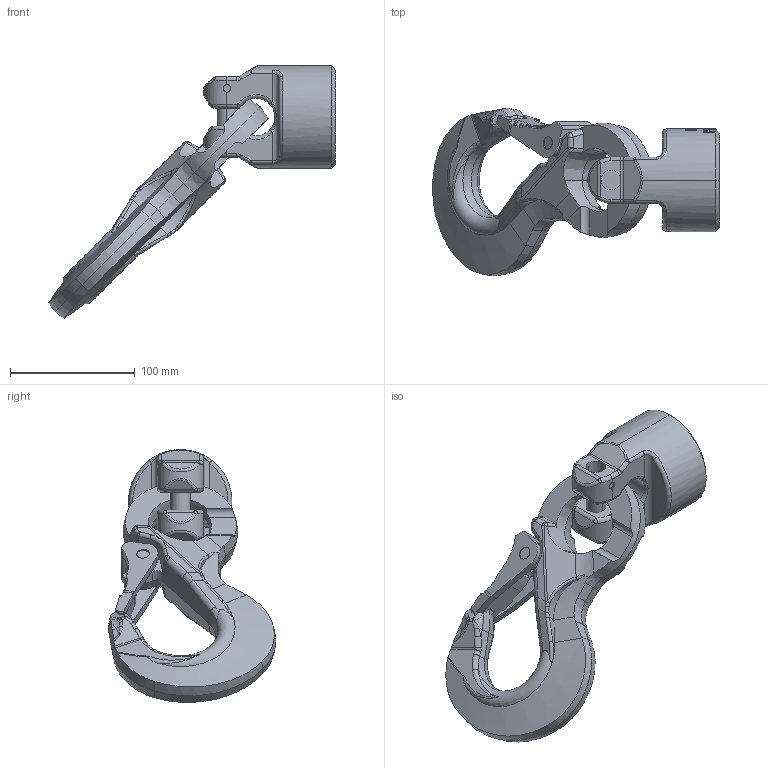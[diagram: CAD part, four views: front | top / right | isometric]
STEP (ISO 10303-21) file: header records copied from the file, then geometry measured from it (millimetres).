
FILE_DESCRIPTION((''),'2;1');
FILE_NAME('001-M31395-P-50_ASM','2018-04-26T',('Anja.Joas'),(''),'PRO/ENGINEER BY PARAMETRIC TECHNOLOGY CORPORATION, 2011490','PRO/ENGINEER BY PARAMETRIC TECHNOLOGY CORPORATION, 2011490','');
FILE_SCHEMA(('CONFIG_CONTROL_DESIGN'));
Length unit declared in the file: millimetre
Products named in the file (5): 001-M31395-P-20_AF0; 001-M31479-001; 001-M31480-001; 001-M31479-002_ASM; 001-M31395-P-50_ASM
Assembly tree (4 placements, depth 3):
  001-M31395-P-50_ASM
    001-M31395-P-20_AF0
    001-M31479-002_ASM
      001-M31479-001
      001-M31480-001
Bounding box: 229.99 x 134.49 x 202.74 mm (x, y, z)
Volume: 719491.7 mm3; surface area: 97696 mm2
Topology: 3 solids, 3 shells, 708 faces, 1878 edges, 1176 vertices
Faces by surface type: plane 376, cylinder 128, bspline 88, sphere 42, cone 38, torus 36
Entity records: 26573 total; most frequent: CARTESIAN_POINT 10163, ORIENTED_EDGE 3700, DIRECTION 2995, EDGE_CURVE 1850, VERTEX_POINT 1176, AXIS2_PLACEMENT_3D 1089, VECTOR 817, LINE 817
